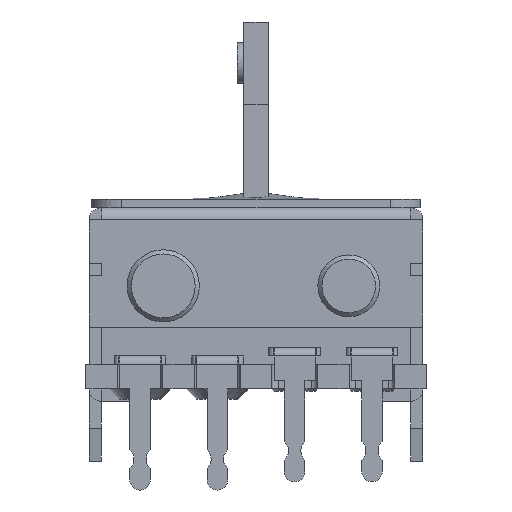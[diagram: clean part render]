
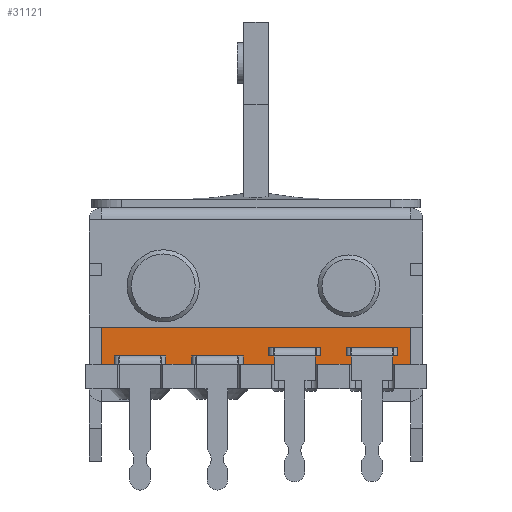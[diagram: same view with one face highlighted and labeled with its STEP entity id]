
A CAD part, left-side view. The second image highlights one B-rep face of the part: STEP entity #31121.
In plain terms, the highlighted planar face has unit normal (-1, 0, 0).
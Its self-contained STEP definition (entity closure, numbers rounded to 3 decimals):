
#5266 = PLANE('',#5267);
#5267 = AXIS2_PLACEMENT_3D('',#5268,#5269,#5270);
#5268 = CARTESIAN_POINT('',(-39.3,-9.5,-8.));
#5269 = DIRECTION('',(1.,0.,0.));
#5270 = DIRECTION('',(0.,0.,1.));
#5292 = PLANE('',#5293);
#5293 = AXIS2_PLACEMENT_3D('',#5294,#5295,#5296);
#5294 = CARTESIAN_POINT('',(-44.,-8.25,-8.));
#5295 = DIRECTION('',(0.,0.,1.));
#5296 = DIRECTION('',(1.,0.,0.));
#6989 = PLANE('',#6990);
#6990 = AXIS2_PLACEMENT_3D('',#6991,#6992,#6993);
#6991 = CARTESIAN_POINT('',(-39.3,7.5,-8.));
#6992 = DIRECTION('',(1.,0.,0.));
#6993 = DIRECTION('',(0.,0.,1.));
#15973 = VERTEX_POINT('',#15974);
#15974 = CARTESIAN_POINT('',(-39.3,-7.5,-8.));
#15995 = EDGE_CURVE('',#15973,#15996,#15998,.T.);
#15996 = VERTEX_POINT('',#15997);
#15997 = CARTESIAN_POINT('',(-39.3,7.5,-8.));
#15998 = SURFACE_CURVE('',#15999,(#16003,#16010),.PCURVE_S1.);
#15999 = LINE('',#16000,#16001);
#16000 = CARTESIAN_POINT('',(-39.3,-8.35,-8.));
#16001 = VECTOR('',#16002,1.);
#16002 = DIRECTION('',(0.,1.,0.));
#16003 = PCURVE('',#5292,#16004);
#16004 = DEFINITIONAL_REPRESENTATION('',(#16005),#16009);
#16005 = LINE('',#16006,#16007);
#16006 = CARTESIAN_POINT('',(4.7,-0.1));
#16007 = VECTOR('',#16008,1.);
#16008 = DIRECTION('',(0.,1.));
#16009 = ( GEOMETRIC_REPRESENTATION_CONTEXT(2) 
PARAMETRIC_REPRESENTATION_CONTEXT() REPRESENTATION_CONTEXT('2D SPACE',''
  ) );
#16010 = PCURVE('',#16011,#16016);
#16011 = PLANE('',#16012);
#16012 = AXIS2_PLACEMENT_3D('',#16013,#16014,#16015);
#16013 = CARTESIAN_POINT('',(-39.3,-9.2,-17.2));
#16014 = DIRECTION('',(1.,0.,0.));
#16015 = DIRECTION('',(0.,0.,1.));
#16016 = DEFINITIONAL_REPRESENTATION('',(#16017),#16020);
#16017 = B_SPLINE_CURVE_WITH_KNOTS('',1,(#16018,#16019),.UNSPECIFIED.,
  .F.,.F.,(2,2),(0.85,15.85),.PIECEWISE_BEZIER_KNOTS.);
#16018 = CARTESIAN_POINT('',(9.2,-1.7));
#16019 = CARTESIAN_POINT('',(9.2,-16.7));
#16020 = ( GEOMETRIC_REPRESENTATION_CONTEXT(2) 
PARAMETRIC_REPRESENTATION_CONTEXT() REPRESENTATION_CONTEXT('2D SPACE',''
  ) );
#17327 = EDGE_CURVE('',#15973,#17328,#17330,.T.);
#17328 = VERTEX_POINT('',#17329);
#17329 = CARTESIAN_POINT('',(-39.3,-7.5,-6.2));
#17330 = SURFACE_CURVE('',#17331,(#17335,#17342),.PCURVE_S1.);
#17331 = LINE('',#17332,#17333);
#17332 = CARTESIAN_POINT('',(-39.3,-7.5,-8.));
#17333 = VECTOR('',#17334,1.);
#17334 = DIRECTION('',(0.,0.,1.));
#17335 = PCURVE('',#5266,#17336);
#17336 = DEFINITIONAL_REPRESENTATION('',(#17337),#17341);
#17337 = LINE('',#17338,#17339);
#17338 = CARTESIAN_POINT('',(0.,-2.));
#17339 = VECTOR('',#17340,1.);
#17340 = DIRECTION('',(1.,0.));
#17341 = ( GEOMETRIC_REPRESENTATION_CONTEXT(2) 
PARAMETRIC_REPRESENTATION_CONTEXT() REPRESENTATION_CONTEXT('2D SPACE',''
  ) );
#17342 = PCURVE('',#16011,#17343);
#17343 = DEFINITIONAL_REPRESENTATION('',(#17344),#17348);
#17344 = LINE('',#17345,#17346);
#17345 = CARTESIAN_POINT('',(9.2,-1.7));
#17346 = VECTOR('',#17347,1.);
#17347 = DIRECTION('',(1.,0.));
#17348 = ( GEOMETRIC_REPRESENTATION_CONTEXT(2) 
PARAMETRIC_REPRESENTATION_CONTEXT() REPRESENTATION_CONTEXT('2D SPACE',''
  ) );
#17392 = PLANE('',#17393);
#17393 = AXIS2_PLACEMENT_3D('',#17394,#17395,#17396);
#17394 = CARTESIAN_POINT('',(-39.3,-9.2,-6.2));
#17395 = DIRECTION('',(0.,0.,1.));
#17396 = DIRECTION('',(-1.,0.,0.));
#22618 = VERTEX_POINT('',#22619);
#22619 = CARTESIAN_POINT('',(-39.3,7.5,-6.2));
#22666 = EDGE_CURVE('',#15996,#22618,#22667,.T.);
#22667 = SURFACE_CURVE('',#22668,(#22672,#22679),.PCURVE_S1.);
#22668 = LINE('',#22669,#22670);
#22669 = CARTESIAN_POINT('',(-39.3,7.5,-8.));
#22670 = VECTOR('',#22671,1.);
#22671 = DIRECTION('',(0.,0.,1.));
#22672 = PCURVE('',#6989,#22673);
#22673 = DEFINITIONAL_REPRESENTATION('',(#22674),#22678);
#22674 = LINE('',#22675,#22676);
#22675 = CARTESIAN_POINT('',(0.,0.));
#22676 = VECTOR('',#22677,1.);
#22677 = DIRECTION('',(1.,0.));
#22678 = ( GEOMETRIC_REPRESENTATION_CONTEXT(2) 
PARAMETRIC_REPRESENTATION_CONTEXT() REPRESENTATION_CONTEXT('2D SPACE',''
  ) );
#22679 = PCURVE('',#16011,#22680);
#22680 = DEFINITIONAL_REPRESENTATION('',(#22681),#22685);
#22681 = LINE('',#22682,#22683);
#22682 = CARTESIAN_POINT('',(9.2,-16.7));
#22683 = VECTOR('',#22684,1.);
#22684 = DIRECTION('',(1.,0.));
#22685 = ( GEOMETRIC_REPRESENTATION_CONTEXT(2) 
PARAMETRIC_REPRESENTATION_CONTEXT() REPRESENTATION_CONTEXT('2D SPACE',''
  ) );
#31121 = ADVANCED_FACE('',(#31122),#16011,.F.);
#31122 = FACE_BOUND('',#31123,.F.);
#31123 = EDGE_LOOP('',(#31124,#31145,#31146,#31147));
#31124 = ORIENTED_EDGE('',*,*,#31125,.F.);
#31125 = EDGE_CURVE('',#17328,#22618,#31126,.T.);
#31126 = SURFACE_CURVE('',#31127,(#31131,#31138),.PCURVE_S1.);
#31127 = LINE('',#31128,#31129);
#31128 = CARTESIAN_POINT('',(-39.3,-9.2,-6.2));
#31129 = VECTOR('',#31130,1.);
#31130 = DIRECTION('',(0.,1.,0.));
#31131 = PCURVE('',#16011,#31132);
#31132 = DEFINITIONAL_REPRESENTATION('',(#31133),#31137);
#31133 = LINE('',#31134,#31135);
#31134 = CARTESIAN_POINT('',(11.,0.));
#31135 = VECTOR('',#31136,1.);
#31136 = DIRECTION('',(0.,-1.));
#31137 = ( GEOMETRIC_REPRESENTATION_CONTEXT(2) 
PARAMETRIC_REPRESENTATION_CONTEXT() REPRESENTATION_CONTEXT('2D SPACE',''
  ) );
#31138 = PCURVE('',#17392,#31139);
#31139 = DEFINITIONAL_REPRESENTATION('',(#31140),#31144);
#31140 = LINE('',#31141,#31142);
#31141 = CARTESIAN_POINT('',(0.,0.));
#31142 = VECTOR('',#31143,1.);
#31143 = DIRECTION('',(0.,-1.));
#31144 = ( GEOMETRIC_REPRESENTATION_CONTEXT(2) 
PARAMETRIC_REPRESENTATION_CONTEXT() REPRESENTATION_CONTEXT('2D SPACE',''
  ) );
#31145 = ORIENTED_EDGE('',*,*,#17327,.F.);
#31146 = ORIENTED_EDGE('',*,*,#15995,.T.);
#31147 = ORIENTED_EDGE('',*,*,#22666,.T.);
